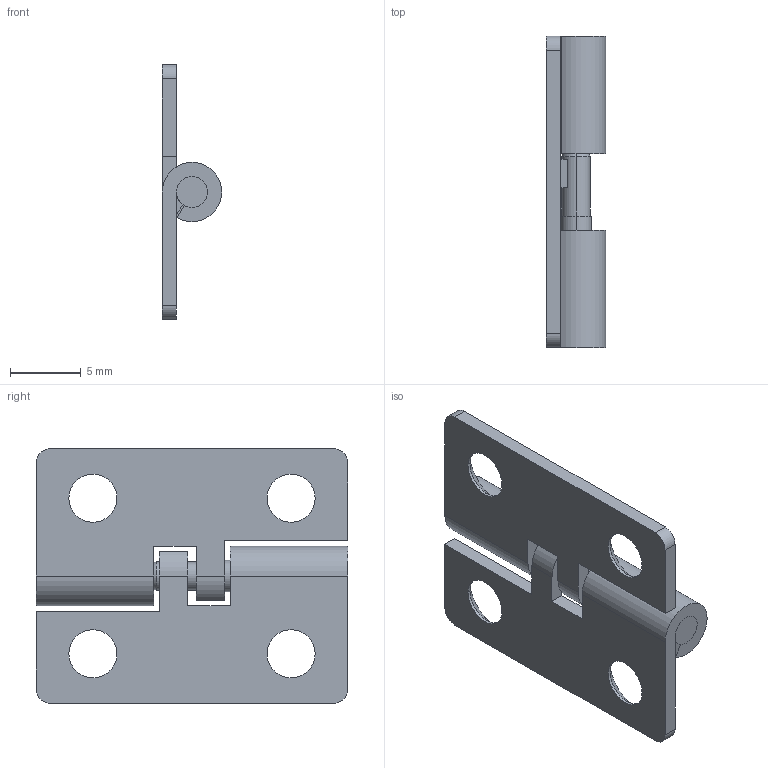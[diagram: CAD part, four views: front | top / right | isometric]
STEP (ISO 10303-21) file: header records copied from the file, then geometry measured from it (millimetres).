
FILE_DESCRIPTION (( 'STEP AP203' ), '1' );
FILE_NAME ('DEH-31-1(L).STEP', '2013-08-29T05:32:50', ( '中村　妙子' ), ( 'ＮＴ設計' ), 'SwSTEP 2.0', 'SolidWorks 2002296', '' );
FILE_SCHEMA (( 'CONFIG_CONTROL_DESIGN' ));
Length unit declared in the file: millimetre
Products named in the file (3): DEH-31-1(L); DEH-31-1-1(L)_蹬怮椔; DEH-31-1-2(L)_蹬怮椔
Assembly tree (3 placements, depth 2):
  DEH-31-1(L)
    DEH-31-1-2(L)_蹬怮椔  x2
    DEH-31-1-1(L)_蹬怮椔
Bounding box: 4.2 x 22 x 18 mm (x, y, z)
Volume: 483.7 mm3; surface area: 1196.3 mm2
Topology: 3 solids, 3 shells, 61 faces, 152 edges, 98 vertices
Faces by surface type: plane 27, cylinder 24, cone 10
Entity records: 1369 total; most frequent: DIRECTION 200, CARTESIAN_POINT 179, ORIENTED_EDGE 168, EDGE_CURVE 84, AXIS2_PLACEMENT_3D 75, VERTEX_POINT 54, LINE 50, VECTOR 50
